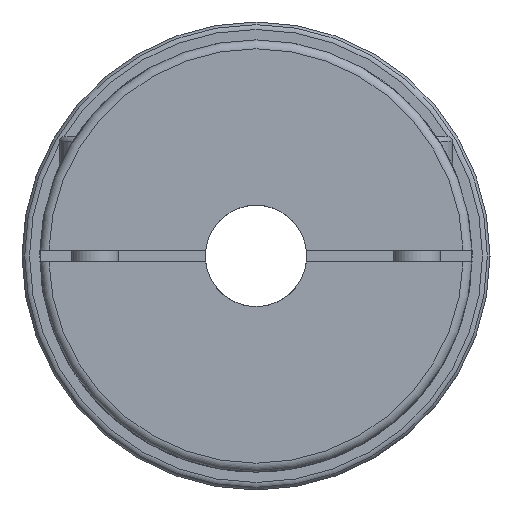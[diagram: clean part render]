
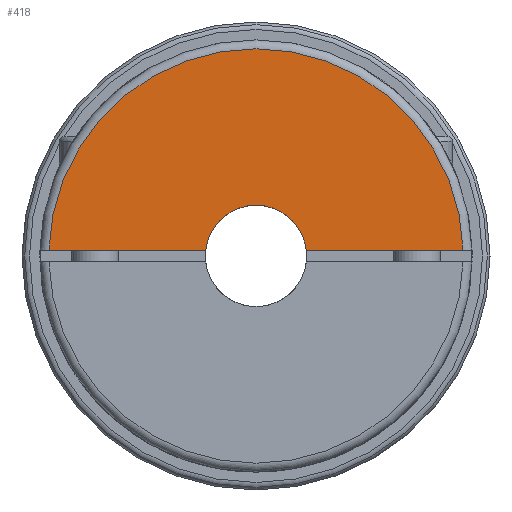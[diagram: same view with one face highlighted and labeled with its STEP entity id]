
A CAD part, left-side view. The second image highlights one B-rep face of the part: STEP entity #418.
In plain terms, the highlighted planar face has unit normal (-1, 0, 0).
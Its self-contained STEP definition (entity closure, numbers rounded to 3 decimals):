
#418 = ADVANCED_FACE( '', ( #1129 ), #1130, .F. );
#1129 = FACE_OUTER_BOUND( '', #2322, .T. );
#1130 = PLANE( '', #2323 );
#2322 = EDGE_LOOP( '', ( #3643, #3644, #3645, #3646 ) );
#2323 = AXIS2_PLACEMENT_3D( '', #3647, #3648, #3649 );
#3643 = ORIENTED_EDGE( '', *, *, #5718, .T. );
#3644 = ORIENTED_EDGE( '', *, *, #5719, .T. );
#3645 = ORIENTED_EDGE( '', *, *, #5720, .T. );
#3646 = ORIENTED_EDGE( '', *, *, #5721, .F. );
#3647 = CARTESIAN_POINT( '', ( -221.483, 0., 17. ) );
#3648 = DIRECTION( '', ( 1., 0., 0. ) );
#3649 = DIRECTION( '', ( 0., 0., 1. ) );
#5718 = EDGE_CURVE( '', #6612, #6613, #6614, .T. );
#5719 = EDGE_CURVE( '', #6613, #6615, #6616, .T. );
#5720 = EDGE_CURVE( '', #6615, #6617, #6618, .T. );
#5721 = EDGE_CURVE( '', #6612, #6617, #6619, .T. );
#6612 = VERTEX_POINT( '', #7850 );
#6613 = VERTEX_POINT( '', #7851 );
#6614 = LINE( '', #7852, #7853 );
#6615 = VERTEX_POINT( '', #7854 );
#6616 = CIRCLE( '', #7855, 17. );
#6617 = VERTEX_POINT( '', #7856 );
#6618 = LINE( '', #7857, #7858 );
#6619 = CIRCLE( '', #7859, 69.5 );
#7850 = CARTESIAN_POINT( '', ( -221.483, 69.471, 2. ) );
#7851 = CARTESIAN_POINT( '', ( -221.483, 16.882, 2. ) );
#7852 = CARTESIAN_POINT( '', ( -221.483, 101.6, 2. ) );
#7853 = VECTOR( '', #10762, 1000. );
#7854 = CARTESIAN_POINT( '', ( -221.483, -16.882, 2. ) );
#7855 = AXIS2_PLACEMENT_3D( '', #10763, #10764, #10765 );
#7856 = CARTESIAN_POINT( '', ( -221.483, -69.471, 2. ) );
#7857 = CARTESIAN_POINT( '', ( -221.483, 101.6, 2. ) );
#7858 = VECTOR( '', #10766, 1000. );
#7859 = AXIS2_PLACEMENT_3D( '', #10767, #10768, #10769 );
#10762 = DIRECTION( '', ( 0., -1., 0. ) );
#10763 = CARTESIAN_POINT( '', ( -221.483, 0., 0. ) );
#10764 = DIRECTION( '', ( 1., 0., 0. ) );
#10765 = DIRECTION( '', ( 0., 0., 1. ) );
#10766 = DIRECTION( '', ( 0., -1., 0. ) );
#10767 = CARTESIAN_POINT( '', ( -221.483, 0., 0. ) );
#10768 = DIRECTION( '', ( 1., 0., 0. ) );
#10769 = DIRECTION( '', ( 0., 0., 1. ) );
